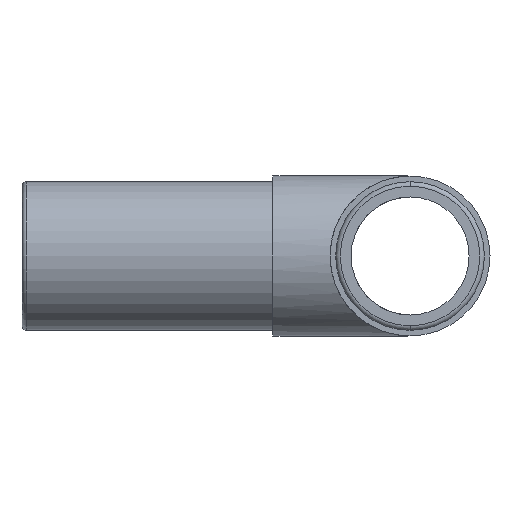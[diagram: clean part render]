
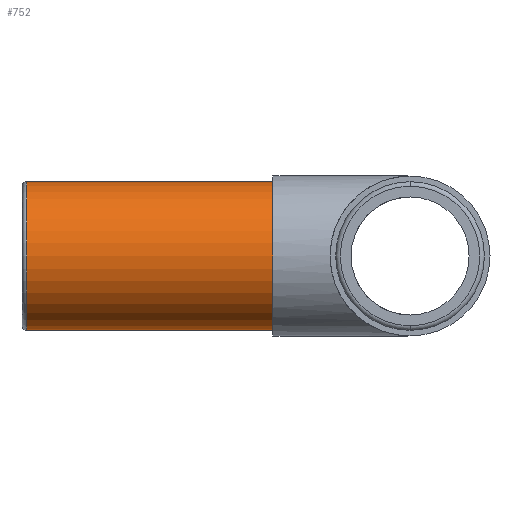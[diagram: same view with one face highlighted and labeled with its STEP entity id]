
A CAD part, left-side view. The second image highlights one B-rep face of the part: STEP entity #752.
In plain terms, the highlighted cylindrical face has radius 16 mm (diameter 32 mm), a partial arc.
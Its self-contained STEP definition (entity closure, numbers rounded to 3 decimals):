
#5 = VERTEX_POINT ( 'NONE', #19 ) ;
#10 = VERTEX_POINT ( 'NONE', #901 ) ;
#18 = VERTEX_POINT ( 'NONE', #725 ) ;
#19 = CARTESIAN_POINT ( 'NONE',  ( 85., 82.5, 16. ) ) ;
#35 = VECTOR ( 'NONE', #231, 1000. ) ;
#46 = AXIS2_PLACEMENT_3D ( 'NONE', #777, #778, #779 ) ;
#48 = AXIS2_PLACEMENT_3D ( 'NONE', #774, #775, #776 ) ;
#51 = CIRCLE ( 'NONE', #46, 16. ) ;
#54 = CIRCLE ( 'NONE', #48, 16. ) ;
#76 = EDGE_CURVE ( 'NONE', #298, #5, #727, .T. ) ;
#215 = LINE ( 'NONE', #222, #35 ) ;
#222 = CARTESIAN_POINT ( 'NONE',  ( 85., -16.001, -16. ) ) ;
#231 = DIRECTION ( 'NONE',  ( 0., 1., 0. ) ) ;
#263 = EDGE_CURVE ( 'NONE', #298, #10, #54, .T. ) ;
#264 = EDGE_CURVE ( 'NONE', #5, #18, #51, .T. ) ;
#271 = EDGE_CURVE ( 'NONE', #10, #18, #215, .T. ) ;
#298 = VERTEX_POINT ( 'NONE', #388 ) ;
#388 = CARTESIAN_POINT ( 'NONE',  ( 85., 29.5, 16. ) ) ;
#451 = AXIS2_PLACEMENT_3D ( 'NONE', #929, #926, #932 ) ;
#665 = ORIENTED_EDGE ( 'NONE', *, *, #264, .T. ) ;
#679 = VECTOR ( 'NONE', #729, 1000. ) ;
#719 = EDGE_LOOP ( 'NONE', ( #876, #877, #878, #665 ) ) ;
#725 = CARTESIAN_POINT ( 'NONE',  ( 85., 82.5, -16. ) ) ;
#727 = LINE ( 'NONE', #728, #679 ) ;
#728 = CARTESIAN_POINT ( 'NONE',  ( 85., -16.001, 16. ) ) ;
#729 = DIRECTION ( 'NONE',  ( 0., 1., 0. ) ) ;
#752 = ADVANCED_FACE ( 'NONE', ( #927 ), #931, .T. ) ;
#774 = CARTESIAN_POINT ( 'NONE',  ( 85., 29.5, 0. ) ) ;
#775 = DIRECTION ( 'NONE',  ( 0., -1., 0. ) ) ;
#776 = DIRECTION ( 'NONE',  ( 0., 0., 1. ) ) ;
#777 = CARTESIAN_POINT ( 'NONE',  ( 85., 82.5, 0. ) ) ;
#778 = DIRECTION ( 'NONE',  ( 0., -1., 0. ) ) ;
#779 = DIRECTION ( 'NONE',  ( 0., 0., 1. ) ) ;
#876 = ORIENTED_EDGE ( 'NONE', *, *, #271, .F. ) ;
#877 = ORIENTED_EDGE ( 'NONE', *, *, #263, .F. ) ;
#878 = ORIENTED_EDGE ( 'NONE', *, *, #76, .T. ) ;
#901 = CARTESIAN_POINT ( 'NONE',  ( 85., 29.5, -16. ) ) ;
#926 = DIRECTION ( 'NONE',  ( 0., 1., 0. ) ) ;
#927 = FACE_OUTER_BOUND ( 'NONE', #719, .T. ) ;
#929 = CARTESIAN_POINT ( 'NONE',  ( 85., -16.001, 0. ) ) ;
#931 = CYLINDRICAL_SURFACE ( 'NONE', #451, 16. ) ;
#932 = DIRECTION ( 'NONE',  ( 0., 0., 1. ) ) ;
